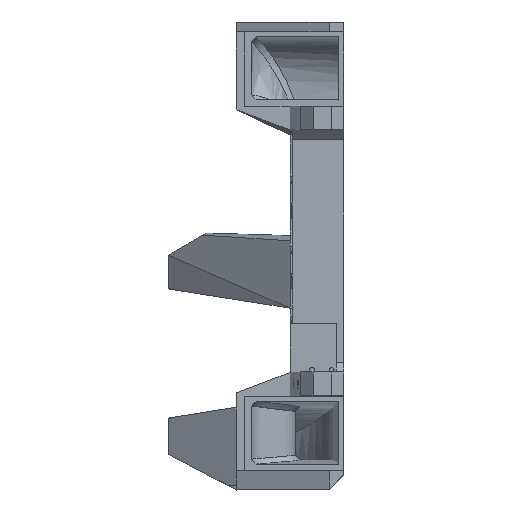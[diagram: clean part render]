
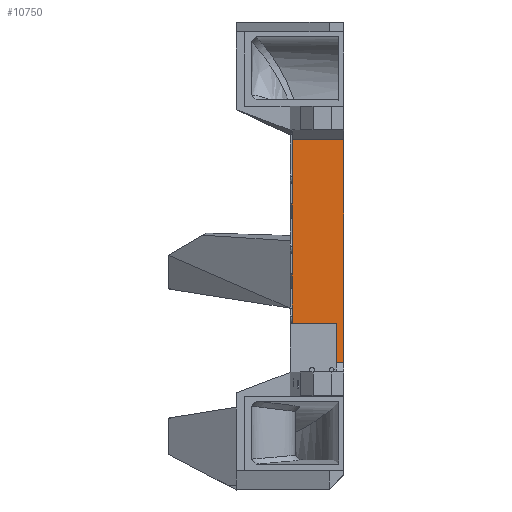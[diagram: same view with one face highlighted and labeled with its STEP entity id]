
A CAD part, top view. The second image highlights one B-rep face of the part: STEP entity #10750.
In plain terms, the highlighted planar face has unit normal (0, 0, 1).
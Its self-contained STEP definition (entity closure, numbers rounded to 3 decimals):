
#1039=ORIENTED_EDGE('',*,*,#3949,.T.);
#1040=ORIENTED_EDGE('',*,*,#4243,.F.);
#1041=ORIENTED_EDGE('',*,*,#4244,.F.);
#1042=ORIENTED_EDGE('',*,*,#4245,.F.);
#1043=ORIENTED_EDGE('',*,*,#4246,.F.);
#1044=ORIENTED_EDGE('',*,*,#4247,.F.);
#1045=ORIENTED_EDGE('',*,*,#4248,.F.);
#1046=ORIENTED_EDGE('',*,*,#4249,.F.);
#1047=ORIENTED_EDGE('',*,*,#4250,.F.);
#1048=ORIENTED_EDGE('',*,*,#4251,.F.);
#3949=EDGE_CURVE('',#5565,#5564,#6597,.T.);
#4243=EDGE_CURVE('',#5835,#5564,#6803,.T.);
#4244=EDGE_CURVE('',#5836,#5835,#6804,.T.);
#4245=EDGE_CURVE('',#5837,#5836,#6805,.T.);
#4246=EDGE_CURVE('',#5838,#5837,#6806,.T.);
#4247=EDGE_CURVE('',#5839,#5838,#6807,.T.);
#4248=EDGE_CURVE('',#5840,#5839,#6808,.T.);
#4249=EDGE_CURVE('',#5841,#5840,#6809,.T.);
#4250=EDGE_CURVE('',#5842,#5841,#6810,.T.);
#4251=EDGE_CURVE('',#5565,#5842,#6811,.T.);
#5564=VERTEX_POINT('',#15443);
#5565=VERTEX_POINT('',#15445);
#5835=VERTEX_POINT('',#16244);
#5836=VERTEX_POINT('',#16246);
#5837=VERTEX_POINT('',#16248);
#5838=VERTEX_POINT('',#16250);
#5839=VERTEX_POINT('',#16252);
#5840=VERTEX_POINT('',#16254);
#5841=VERTEX_POINT('',#16256);
#5842=VERTEX_POINT('',#16258);
#6597=LINE('',#15444,#7848);
#6803=LINE('',#16243,#8054);
#6804=LINE('',#16245,#8055);
#6805=LINE('',#16247,#8056);
#6806=LINE('',#16249,#8057);
#6807=LINE('',#16251,#8058);
#6808=LINE('',#16253,#8059);
#6809=LINE('',#16255,#8060);
#6810=LINE('',#16257,#8061);
#6811=LINE('',#16259,#8062);
#7848=VECTOR('',#12266,1000.);
#8054=VECTOR('',#12642,1000.);
#8055=VECTOR('',#12643,1000.);
#8056=VECTOR('',#12644,1000.);
#8057=VECTOR('',#12645,1000.);
#8058=VECTOR('',#12646,1000.);
#8059=VECTOR('',#12647,1000.);
#8060=VECTOR('',#12648,1000.);
#8061=VECTOR('',#12649,1000.);
#8062=VECTOR('',#12650,1000.);
#8999=EDGE_LOOP('',(#1039,#1040,#1041,#1042,#1043,#1044,#1045,#1046,#1047,
#1048));
#9670=FACE_BOUND('',#8999,.T.);
#10299=PLANE('',#11436);
#10750=ADVANCED_FACE('',(#9670),#10299,.T.);
#11436=AXIS2_PLACEMENT_3D('',#16242,#12640,#12641);
#12266=DIRECTION('',(0.,1.,0.));
#12640=DIRECTION('',(0.,0.,1.));
#12641=DIRECTION('',(-1.,0.,0.));
#12642=DIRECTION('',(1.,0.,0.));
#12643=DIRECTION('',(0.,1.,0.));
#12644=DIRECTION('',(0.,1.,0.));
#12645=DIRECTION('',(0.,1.,0.));
#12646=DIRECTION('',(0.,1.,0.));
#12647=DIRECTION('',(0.,1.,0.));
#12648=DIRECTION('',(-1.,0.,0.));
#12649=DIRECTION('',(0.,1.,0.));
#12650=DIRECTION('',(-1.,0.,0.));
#15443=CARTESIAN_POINT('',(536.05,-6.8,24.498));
#15444=CARTESIAN_POINT('',(536.05,-54.5,24.498));
#15445=CARTESIAN_POINT('',(536.05,-52.5,24.498));
#16242=CARTESIAN_POINT('',(534.55,-54.5,24.498));
#16243=CARTESIAN_POINT('',(536.05,-6.8,24.498));
#16244=CARTESIAN_POINT('',(525.522,-6.8,24.498));
#16245=CARTESIAN_POINT('',(525.522,-54.5,24.498));
#16246=CARTESIAN_POINT('',(525.522,-19.975,24.498));
#16247=CARTESIAN_POINT('',(525.522,-191.74,24.498));
#16248=CARTESIAN_POINT('',(525.522,-22.975,24.498));
#16249=CARTESIAN_POINT('',(525.522,-53.5,24.498));
#16250=CARTESIAN_POINT('',(525.522,-34.325,24.498));
#16251=CARTESIAN_POINT('',(525.522,-191.74,24.498));
#16252=CARTESIAN_POINT('',(525.522,-37.325,24.498));
#16253=CARTESIAN_POINT('',(525.522,-53.5,24.498));
#16254=CARTESIAN_POINT('',(525.522,-44.5,24.498));
#16255=CARTESIAN_POINT('',(534.55,-44.5,24.498));
#16256=CARTESIAN_POINT('',(534.55,-44.5,24.498));
#16257=CARTESIAN_POINT('',(534.55,-54.5,24.498));
#16258=CARTESIAN_POINT('',(534.55,-52.5,24.498));
#16259=CARTESIAN_POINT('',(534.55,-52.5,24.498));
